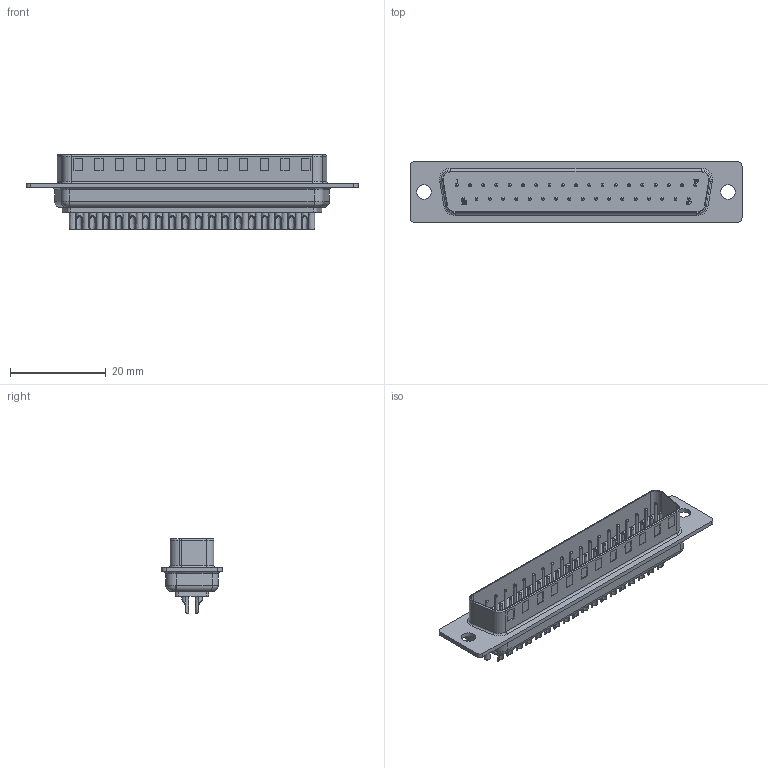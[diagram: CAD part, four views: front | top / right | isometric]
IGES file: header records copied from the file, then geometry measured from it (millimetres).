
Global section: file name: Filename.iges; native system: Open CASCADE 7.3; preprocessor: Open CASCADE IGES processor 7.3; date: 20201223.080450; units: millimetre
Bounding box: 69.3 x 12.6 x 15.52 mm (x, y, z)
Surface area: 5306.8 mm2 (no closed solid volume)
Topology: 0 solids, 0 shells, 1084 faces, 5146 edges, 5146 vertices
Faces by surface type: revolution 541, plane 469, bspline 74
